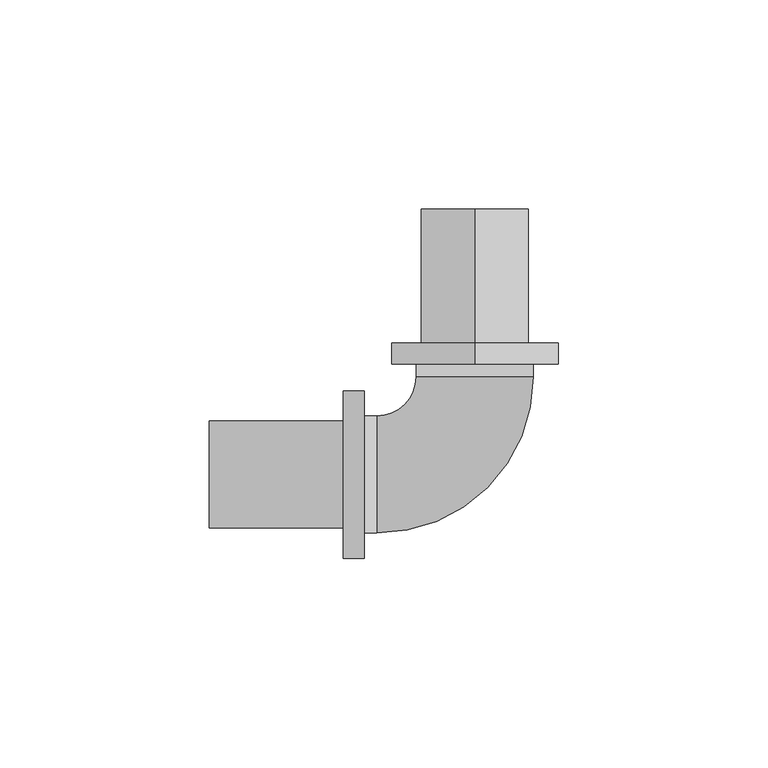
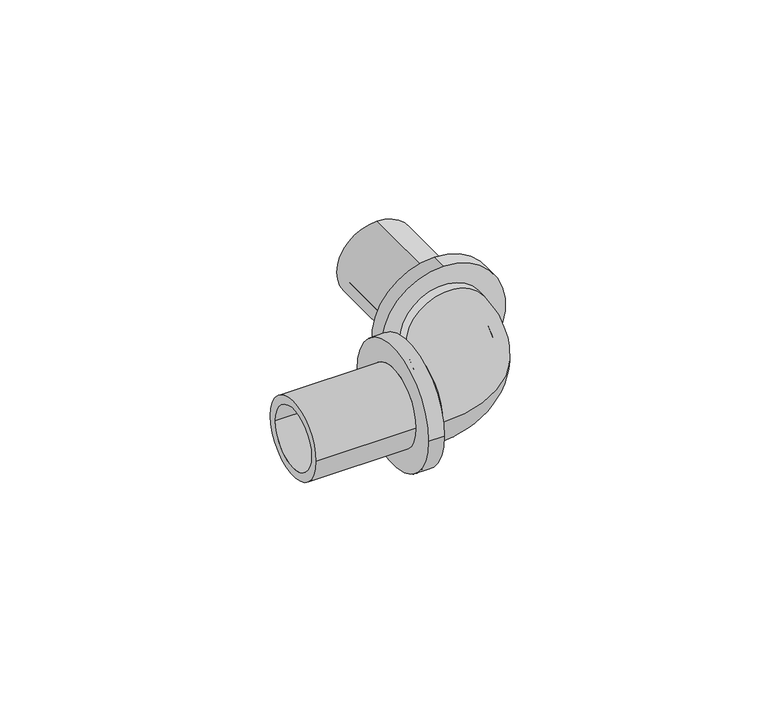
"""IFC4 building model written with IfcOpenShell, lengths in millimetres: pipe fitting geometry, RAUTITAN_Corner_RX+ : RTI RX+ C DE."""

import ifcopenshell
import ifcopenshell.guid

model = None  # the IFC model being written
_history = None  # IfcOwnerHistory: only IFC2X3 demands one
_inside = {}  # id of a spatial element -> (the spatial element, [elements in it])
_under = {}  # id of a project, library or spatial element -> (it, [spatial elements below it])
_declared = {}  # id of a project -> (the project, [libraries it declares])
_typed = {}  # id of a type object -> (the type object, [elements of that type])
_made_of = {}  # id of a material, layer set ... -> (it, [elements and type objects made of it])


def new_model(schema):
    """Start an empty IFC model of exactly this schema.

    Asked for "IFC4X3", IfcOpenShell would pick the latest addendum, in which some entities
    have other attributes; the version numbers below select the first issue.
    IFC2X3 requires an IfcOwnerHistory on every rooted entity: one is made here for all.
    """
    global model, _history
    if schema == "IFC4X3":
        model = ifcopenshell.file(schema_version=(4, 3, 0, 0))
    else:
        model = ifcopenshell.file(schema=schema)
    _inside.clear()
    _under.clear()
    _declared.clear()
    _typed.clear()
    _made_of.clear()
    _history = None
    if model.schema == "IFC2X3":
        org = make("IfcOrganization", Name="unknown")
        user = make(
            "IfcPersonAndOrganization",
            ThePerson=make("IfcPerson", FamilyName="unknown"),
            TheOrganization=org,
        )
        app = make(
            "IfcApplication",
            ApplicationDeveloper=org,
            Version="unknown",
            ApplicationFullName="unknown",
            ApplicationIdentifier="unknown",
        )
        _history = make(
            "IfcOwnerHistory",
            OwningUser=user,
            OwningApplication=app,
            ChangeAction="ADDED",
            CreationDate=0,
        )
    return model


def make(cls, **values):
    """One entity of the class cls with the attributes given. An attribute that is None is left unset."""
    return model.create_entity(
        cls, **{name: value for name, value in values.items() if value is not None}
    )


def rooted(cls, **values):
    """An entity with a GlobalId (a new one), such as an element, a storey or a relation."""
    return make(cls, GlobalId=ifcopenshell.guid.new(), OwnerHistory=_history, **values)


def si_unit(unit_type, name, prefix=None):
    """IfcSIUnit, for example si_unit("LENGTHUNIT", "METRE", prefix="MILLI")."""
    return make("IfcSIUnit", UnitType=unit_type, Prefix=prefix, Name=name)


def assignment(units):
    """IfcUnitAssignment: the units of a project."""
    return None if units is None else make("IfcUnitAssignment", Units=units)


def point(xyz):
    """IfcCartesianPoint."""
    return None if xyz is None else make("IfcCartesianPoint", Coordinates=xyz)


def direction(xyz):
    """IfcDirection."""
    return None if xyz is None else make("IfcDirection", DirectionRatios=xyz)


def frame(location, z_axis=None, x_axis=None):
    """IfcAxis2Placement3D, a coordinate frame: its origin and axes. An axis left out is left unset."""
    return make(
        "IfcAxis2Placement3D",
        Location=point(location),
        Axis=direction(z_axis),
        RefDirection=direction(x_axis),
    )


def origin():
    """The frame at (0, 0, 0) with its axes left unset."""
    return frame((0.0, 0.0, 0.0))


def place(relative_to, where):
    """IfcLocalPlacement: puts the frame where relative to a parent placement (None: the world)."""
    return make(
        "IfcLocalPlacement", PlacementRelTo=relative_to, RelativePlacement=where
    )


def context(
    kind, dimensions, precision=None, world=None, true_north=None, identifier=None
):
    """IfcGeometricRepresentationContext, for example the 3D "Model" context."""
    return make(
        "IfcGeometricRepresentationContext",
        ContextIdentifier=identifier,
        ContextType=kind,
        CoordinateSpaceDimension=dimensions,
        Precision=precision,
        WorldCoordinateSystem=world,
        TrueNorth=true_north,
    )


def project(units=None, contexts=None):
    """IfcProject with its units and contexts."""
    return rooted(
        "IfcProject",
        Name="project",
        RepresentationContexts=contexts,
        UnitsInContext=assignment(units),
    )


def spatial(cls, under=None, at=None, **own):
    """A site, building, storey or space (cls), placed at a placement, below another one or the project."""
    s = rooted(cls, ObjectPlacement=at, **own)
    if under is not None:
        _under.setdefault(under.id(), (under, []))[1].append(s)
    return s


def polyline(points):
    """IfcPolyline through the points."""
    return make("IfcPolyline", Points=[point(p) for p in points])


def circle_curve(where, radius):
    """IfcCircle in the frame where."""
    return make("IfcCircle", Position=where, Radius=radius)


def ellipse_curve(where, semi_axis1, semi_axis2):
    """IfcEllipse in the frame where."""
    return make(
        "IfcEllipse", Position=where, SemiAxis1=semi_axis1, SemiAxis2=semi_axis2
    )


def trimmed(basis, trim1, trim2, sense, master):
    """IfcTrimmedCurve: the piece of a basis curve between two trims."""
    return make(
        "IfcTrimmedCurve",
        BasisCurve=basis,
        Trim1=trim1,
        Trim2=trim2,
        SenseAgreement=sense,
        MasterRepresentation=master,
    )


def shape(context_of_items, identifier, shape_type, items):
    """IfcShapeRepresentation: the items that make up one representation, for example the "Body"."""
    return make(
        "IfcShapeRepresentation",
        ContextOfItems=context_of_items,
        RepresentationIdentifier=identifier,
        RepresentationType=shape_type,
        Items=items,
    )


def source(mapping_origin, context_of_items, identifier, shape_type, items):
    """IfcRepresentationMap: a shape defined once, which mapped items show again and again."""
    return make(
        "IfcRepresentationMap",
        MappingOrigin=mapping_origin,
        MappedRepresentation=shape(context_of_items, identifier, shape_type, items),
    )


def transform(
    local_origin,
    x_axis=None,
    y_axis=None,
    z_axis=None,
    scale=None,
    scale2=None,
    scale3=None,
    uniform=True,
):
    """IfcCartesianTransformationOperator3D, or its non-uniform kind. x_axis, y_axis, z_axis: its Axis1, 2, 3."""
    if uniform:
        return make(
            "IfcCartesianTransformationOperator3D",
            Axis1=direction(x_axis),
            Axis2=direction(y_axis),
            LocalOrigin=point(local_origin),
            Scale=scale,
            Axis3=direction(z_axis),
        )
    return make(
        "IfcCartesianTransformationOperator3DnonUniform",
        Axis1=direction(x_axis),
        Axis2=direction(y_axis),
        LocalOrigin=point(local_origin),
        Scale=scale,
        Axis3=direction(z_axis),
        Scale2=scale2,
        Scale3=scale3,
    )


def mapped(mapping_source, mapping_target):
    """IfcMappedItem: shows the shape of a source again, moved by a transform."""
    return make(
        "IfcMappedItem", MappingSource=mapping_source, MappingTarget=mapping_target
    )


def made_of(thing, what):
    """Note that an element or type object is made of a material, layer set ...; save() writes the relation."""
    if what is not None:
        _made_of.setdefault(what.id(), (what, []))[1].append(thing)
    return thing


def element(
    cls,
    number,
    at=None,
    inside=None,
    cuts=None,
    type_object=None,
    material=None,
    context=None,
    identifier="Body",
    shape_type=None,
    held_by="IfcProductDefinitionShape",
    body=None,
    shapes=None,
    **own,
):
    """One element of the class cls, such as IfcWall. Its Tag is "e" and its number.

    at: its placement. inside: the storey or other place that contains it. cuts: it is an
    opening in that element (IfcRelVoidsElement). A single representation is given by context,
    identifier, shape_type and body (its items); several are given by shapes. held_by: the class
    of the entity that holds the representations. save() writes the other relations.
    """
    e = rooted(cls, Tag="e%d" % number, ObjectPlacement=at, **own)
    if body is not None:
        shapes = [shape(context, identifier, shape_type, body)]
    if shapes is not None:
        e.Representation = make(held_by, Representations=shapes)
    if inside is not None:
        _inside.setdefault(inside.id(), (inside, []))[1].append(e)
    if cuts is not None:
        rooted(
            "IfcRelVoidsElement", RelatingBuildingElement=cuts, RelatedOpeningElement=e
        )
    if type_object is not None:
        _typed.setdefault(type_object.id(), (type_object, []))[1].append(e)
    return made_of(e, material)


def aggregate(whole, parts):
    """IfcRelAggregates: a whole, such as a stair, and the parts it consists of."""
    return rooted("IfcRelAggregates", RelatingObject=whole, RelatedObjects=parts)


def save(model, path):
    """Write the relations noted so far, then the file.

    IfcRelAggregates (storeys below a building ...), IfcRelContainedInSpatialStructure (elements
    in a storey), IfcRelDefinesByType, IfcRelAssociatesMaterial and IfcRelDeclares: one each for
    every whole, place, type object, material and project.
    """
    for whole, parts in _under.values():
        aggregate(whole, parts)
    for where, things in _inside.values():
        rooted(
            "IfcRelContainedInSpatialStructure",
            RelatedElements=things,
            RelatingStructure=where,
        )
    for kind, things in _typed.values():
        rooted("IfcRelDefinesByType", RelatedObjects=things, RelatingType=kind)
    for what, things in _made_of.values():
        rooted("IfcRelAssociatesMaterial", RelatedObjects=things, RelatingMaterial=what)
    for by, libraries in _declared.values():
        rooted("IfcRelDeclares", RelatingContext=by, RelatedDefinitions=libraries)
    model.write(path)


def plane_surface(at):
    """IfcPlane: the flat surface through the origin of the frame at, square to its z axis."""
    return make("IfcPlane", Position=at)


def cylinder_surface(at, radius):
    """IfcCylindricalSurface: all points at the distance radius from the z axis of the frame at."""
    return make("IfcCylindricalSurface", Position=at, Radius=radius)


def revolved_surface(curve, axis_point, axis_direction):
    """IfcSurfaceOfRevolution: the curve turned about the line through axis_point along axis_direction."""
    return make(
        "IfcSurfaceOfRevolution",
        SweptCurve=make("IfcArbitraryOpenProfileDef", ProfileType="CURVE", Curve=curve),
        AxisPosition=make("IfcAxis1Placement", Location=point(axis_point), Axis=direction(axis_direction)),
    )


def advanced_brep(points, edges, surfaces, faces):
    """IfcAdvancedBrep: a solid bounded by faces that lie on surfaces and meet in shared edges.

    An edge is (start, end): straight between two places in points (the first is 0);
    or (start, end, curve); or (start, end, curve, False) where it runs against its curve.
    A face is (place in surfaces, loops), or (place, loops, False) where it looks against
    its surface's normal. A loop lists edges by number (the first is 1), with a minus sign
    where the edge is run from its end to its start. The first loop is the outer one.
    """
    corners = [point(p) for p in points]
    vertices = [make("IfcVertexPoint", VertexGeometry=c) for c in corners]
    made = []
    for start, end, *more in edges:
        made.append(
            make(
                "IfcEdgeCurve",
                EdgeStart=vertices[start],
                EdgeEnd=vertices[end],
                EdgeGeometry=more[0] if more else make("IfcPolyline", Points=[corners[start], corners[end]]),
                SameSense=more[1] if len(more) > 1 else True,
            )
        )
    hull = []
    for where, loops, *sense in faces:
        bounds = []
        for j, loop in enumerate(loops):
            ring = [make("IfcOrientedEdge", EdgeElement=made[abs(k) - 1], Orientation=k > 0) for k in loop]
            bounds.append(
                make(
                    "IfcFaceOuterBound" if j == 0 else "IfcFaceBound",
                    Bound=make("IfcEdgeLoop", EdgeList=ring),
                    Orientation=True,
                )
            )
        hull.append(make("IfcAdvancedFace", Bounds=bounds, FaceSurface=surfaces[where], SameSense=sense[0] if sense else True))
    return make("IfcAdvancedBrep", Outer=make("IfcClosedShell", CfsFaces=hull))


def pipe_fitting_7f654206(model_context):
    return source(origin(), model_context, "Body", "AdvancedBrep", [
        advanced_brep(
        [(-26.4, 14.0, 0.0), (-26.4, -14.0, 0.0), (-26.4, 10.0, 0.0), (-26.4, -10.0, 0.0), (-23.4, -10.0, 0.0), (-23.4, 0.0, -10.0), (-23.4, 10.0, 0.0), (-23.4, 0.0, 10.0), (-23.4, -14.0, 0.0), (-23.4, 14.0, 0.0), (14.0, 26.4, 0.0), (-14.0, 26.4, 0.0), (10.0, 26.4, 0.0), (-10.0, 26.4, 0.0), (-10.0, 23.4, 0.0), (0.0, 23.4, -10.0), (10.0, 23.4, 0.0), (0.0, 23.4, 10.0), (-14.0, 23.4, 0.0), (14.0, 23.4, 0.0)],
        [
            (0, 1, circle_curve(frame((-26.4, 0.0, 0.0), z_axis=(-1.0, 0.0, 0.0), x_axis=(0.0, -1.0, 0.0)), 14.0)),
            (1, 0, circle_curve(frame((-26.4, 0.0, 0.0), z_axis=(-1.0, 0.0, 0.0), x_axis=(0.0, -1.0, 0.0)), 14.0)),
            (2, 3, circle_curve(frame((-26.4, 0.0, 0.0), z_axis=(1.0, 0.0, 0.0), x_axis=(0.0, -1.0, 0.0)), 10.0)),
            (3, 2, circle_curve(frame((-26.4, 0.0, 0.0), z_axis=(1.0, 0.0, 0.0), x_axis=(0.0, -1.0, 0.0)), 10.0)),
            (3, 4),
            (4, 5, circle_curve(frame((-23.4, 0.0, 0.0), z_axis=(1.0, 0.0, 0.0), x_axis=(0.0, -1.0, 0.0)), 10.0)),
            (5, 6, circle_curve(frame((-23.4, 0.0, 0.0), z_axis=(1.0, 0.0, 0.0), x_axis=(0.0, -1.0, 0.0)), 10.0)),
            (6, 2),
            (6, 7, circle_curve(frame((-23.4, 0.0, 0.0), z_axis=(1.0, 0.0, 0.0), x_axis=(0.0, -1.0, 0.0)), 10.0)),
            (7, 4, circle_curve(frame((-23.4, 0.0, 0.0), z_axis=(1.0, 0.0, 0.0), x_axis=(0.0, -1.0, 0.0)), 10.0)),
            (1, 8),
            (8, 9, circle_curve(frame((-23.4, 0.0, 0.0), z_axis=(-1.0, 0.0, 0.0), x_axis=(0.0, -1.0, 0.0)), 14.0)),
            (9, 0),
            (9, 8, circle_curve(frame((-23.4, 0.0, 0.0), z_axis=(-1.0, 0.0, 0.0), x_axis=(0.0, -1.0, 0.0)), 14.0)),
            (10, 11, circle_curve(frame((0.0, 26.4, 0.0), z_axis=(0.0, 1.0, 0.0), x_axis=(-1.0, 0.0, 0.0)), 14.0)),
            (11, 10, circle_curve(frame((0.0, 26.4, 0.0), z_axis=(0.0, 1.0, 0.0), x_axis=(-1.0, 0.0, 0.0)), 14.0)),
            (12, 13, circle_curve(frame((0.0, 26.4, 0.0), z_axis=(0.0, -1.0, 0.0), x_axis=(-1.0, 0.0, 0.0)), 10.0)),
            (13, 12, circle_curve(frame((0.0, 26.4, 0.0), z_axis=(0.0, -1.0, 0.0), x_axis=(-1.0, 0.0, 0.0)), 10.0)),
            (13, 14),
            (14, 15, circle_curve(frame((0.0, 23.4, 0.0), z_axis=(0.0, -1.0, 0.0), x_axis=(-1.0, 0.0, 0.0)), 10.0)),
            (15, 16, circle_curve(frame((0.0, 23.4, 0.0), z_axis=(0.0, -1.0, 0.0), x_axis=(-1.0, 0.0, 0.0)), 10.0)),
            (16, 12),
            (16, 17, circle_curve(frame((0.0, 23.4, 0.0), z_axis=(0.0, -1.0, 0.0), x_axis=(-1.0, 0.0, 0.0)), 10.0)),
            (17, 14, circle_curve(frame((0.0, 23.4, 0.0), z_axis=(0.0, -1.0, 0.0), x_axis=(-1.0, 0.0, 0.0)), 10.0)),
            (11, 18),
            (18, 19, circle_curve(frame((0.0, 23.4, 0.0), z_axis=(0.0, 1.0, 0.0), x_axis=(-1.0, 0.0, 0.0)), 14.0)),
            (19, 10),
            (19, 18, circle_curve(frame((0.0, 23.4, 0.0), z_axis=(0.0, 1.0, 0.0), x_axis=(-1.0, 0.0, 0.0)), 14.0)),
            (14, 6, circle_curve(frame((-23.4, 23.4, 0.0), z_axis=(0.0, 0.0, -1.0), x_axis=(0.0, -1.0, 0.0)), 13.4)),
            (4, 16, circle_curve(frame((-23.4, 23.4, 0.0), z_axis=(0.0, 0.0, 1.0), x_axis=(0.0, -1.0, 0.0)), 33.4)),
            (18, 9, circle_curve(frame((-23.4, 23.4, 0.0), z_axis=(0.0, 0.0, -1.0), x_axis=(0.0, -1.0, 0.0)), 9.4)),
            (8, 19, circle_curve(frame((-23.4, 23.4, 0.0), z_axis=(0.0, 0.0, 1.0), x_axis=(0.0, -1.0, 0.0)), 37.4)),
        ],
        [
            plane_surface(frame((-26.4, 0.0, 0.0), z_axis=(-1.0, 0.0, 0.0), x_axis=(0.0, 0.0, 1.0))),
            revolved_surface(polyline([(-26.4, -10.0, 0.0), (-23.4, -10.0, 0.0)]), (-23.4, 0.0, 0.0), (-1.0, 0.0, 0.0)),
            cylinder_surface(frame((-23.4, 0.0, 0.0), z_axis=(1.0, 0.0, 0.0), x_axis=(0.0, -1.0, 0.0)), 14.0),
            plane_surface(frame((0.0, 26.4, 0.0), z_axis=(0.0, 1.0, 0.0), x_axis=(0.0, 0.0, 1.0))),
            revolved_surface(polyline([(-10.0, 26.4, 0.0), (-10.0, 23.4, 0.0)]), (0.0, 23.4, 0.0), (0.0, 1.0, 0.0)),
            cylinder_surface(frame((0.0, 23.4, 0.0), z_axis=(0.0, -1.0, 0.0), x_axis=(-1.0, 0.0, 0.0)), 14.0),
            revolved_surface(trimmed(ellipse_curve(frame((-23.4, 0.0, 0.0), z_axis=(1.0, 0.0, 0.0), x_axis=(0.0, 1.0, 0.0)), 10.0, 10.0), [point((-23.4, -10.0, 0.0))], [point((-23.4, 10.0, 0.0))], True, "CARTESIAN"), (-23.4, 23.4, 0.0), (0.0, 0.0, 1.0)),
            revolved_surface(trimmed(ellipse_curve(frame((-23.4, 0.0, 0.0), z_axis=(1.0, 0.0, 0.0), x_axis=(0.0, 1.0, 0.0)), 10.0, 10.0), [point((-23.4, 10.0, 0.0))], [point((-23.4, -10.0, 0.0))], True, "CARTESIAN"), (-23.4, 23.4, 0.0), (0.0, 0.0, 1.0)),
            revolved_surface(trimmed(ellipse_curve(frame((-23.4, 0.0, 0.0), z_axis=(-1.0, 0.0, 0.0), x_axis=(0.0, 1.0, 0.0)), 14.0, 14.0), [point((-23.4, -14.0, 0.0))], [point((-23.4, 14.0, 0.0))], True, "CARTESIAN"), (-23.4, 23.4, 0.0), (0.0, 0.0, 1.0)),
            revolved_surface(trimmed(ellipse_curve(frame((-23.4, 0.0, 0.0), z_axis=(-1.0, 0.0, 0.0), x_axis=(0.0, 1.0, 0.0)), 14.0, 14.0), [point((-23.4, 14.0, 0.0))], [point((-23.4, -14.0, 0.0))], True, "CARTESIAN"), (-23.4, 23.4, 0.0), (0.0, 0.0, 1.0)),
        ],
        [
            (0, [[1, 2], [3, 4]]),
            (1, [[-4, 5, 6, 7, 8]]),
            (1, [[-3, -8, 9, 10, -5]]),
            (2, [[-2, 11, 12, 13]]),
            (2, [[-1, -13, 14, -11]]),
            (3, [[15, 16], [17, 18]]),
            (4, [[-18, 19, 20, 21, 22]]),
            (4, [[-17, -22, 23, 24, -19]]),
            (5, [[-16, 25, 26, 27]]),
            (5, [[-15, -27, 28, -25]]),
            (6, [[29, -7, -6, 30, -21, -20]]),
            (7, [[-29, -24, -23, -30, -10, -9]]),
            (8, [[31, -12, 32, -26]]),
            (9, [[-31, -28, -32, -14]]),
        ],
    ),
        advanced_brep(
        [(-31.4, -20.0, 0.0), (-31.4, 20.0, 0.0), (-26.4, 20.0, 0.0), (-26.4, -20.0, 0.0), (-63.4, -12.8, 0.0), (-63.4, 12.8, 0.0), (-31.4, 12.8, 0.0), (-31.4, -12.8, 0.0), (-26.4, -10.0, 0.0), (-26.4, 10.0, 0.0), (-63.4, 10.0, 0.0), (-63.4, -10.0, 0.0)],
        [
            (0, 1, circle_curve(frame((-31.4, 0.0, 0.0), z_axis=(1.0, 0.0, 0.0), x_axis=(0.0, 1.0, 0.0)), 20.0)),
            (1, 2),
            (2, 3, circle_curve(frame((-26.4, 0.0, 0.0), z_axis=(-1.0, 0.0, 0.0), x_axis=(0.0, 1.0, 0.0)), 20.0)),
            (3, 0),
            (4, 5, circle_curve(frame((-63.4, 0.0, 0.0), z_axis=(1.0, 0.0, 0.0), x_axis=(0.0, 1.0, 0.0)), 12.8)),
            (5, 6),
            (6, 7, circle_curve(frame((-31.4, 0.0, 0.0), z_axis=(-1.0, 0.0, 0.0), x_axis=(0.0, 1.0, 0.0)), 12.8)),
            (7, 4),
            (8, 9, circle_curve(frame((-26.4, 0.0, 0.0), z_axis=(1.0, 0.0, 0.0), x_axis=(0.0, 1.0, 0.0)), 10.0)),
            (9, 10),
            (10, 11, circle_curve(frame((-63.4, 0.0, 0.0), z_axis=(-1.0, 0.0, 0.0), x_axis=(0.0, 1.0, 0.0)), 10.0)),
            (11, 8),
            (1, 0, circle_curve(frame((-31.4, 0.0, 0.0), z_axis=(1.0, 0.0, 0.0), x_axis=(0.0, -1.0, 0.0)), 20.0)),
            (3, 2, circle_curve(frame((-26.4, 0.0, 0.0), z_axis=(-1.0, 0.0, 0.0), x_axis=(0.0, -1.0, 0.0)), 20.0)),
            (6, 7, circle_curve(frame((-31.4, 0.0, 0.0), z_axis=(1.0, 0.0, 0.0), x_axis=(0.0, -1.0, 0.0)), 12.8)),
            (5, 4, circle_curve(frame((-63.4, 0.0, 0.0), z_axis=(1.0, 0.0, 0.0), x_axis=(0.0, -1.0, 0.0)), 12.8)),
            (10, 11, circle_curve(frame((-63.4, 0.0, 0.0), z_axis=(1.0, 0.0, 0.0), x_axis=(0.0, -1.0, 0.0)), 10.0)),
            (9, 8, circle_curve(frame((-26.4, 0.0, 0.0), z_axis=(1.0, 0.0, 0.0), x_axis=(0.0, -1.0, 0.0)), 10.0)),
        ],
        [
            cylinder_surface(frame((-26.4, 0.0, 0.0), z_axis=(-1.0, 0.0, 0.0), x_axis=(0.0, 1.0, 0.0)), 20.0),
            cylinder_surface(frame((-26.4, 0.0, 0.0), z_axis=(-1.0, 0.0, 0.0), x_axis=(0.0, 1.0, 0.0)), 12.8),
            revolved_surface(polyline([(-63.4, 10.0, 0.0), (-26.4, 10.0, 0.0)]), (-26.4, 0.0, 0.0), (-1.0, 0.0, 0.0)),
            cylinder_surface(frame((-26.4, 0.0, 0.0), z_axis=(-1.0, 0.0, 0.0), x_axis=(0.0, -1.0, 0.0)), 20.0),
            plane_surface(frame((-31.4, 0.0, 0.0), z_axis=(-1.0, 0.0, 0.0), x_axis=(0.0, -1.0, 0.0))),
            cylinder_surface(frame((-26.4, 0.0, 0.0), z_axis=(-1.0, 0.0, 0.0), x_axis=(0.0, -1.0, 0.0)), 12.8),
            plane_surface(frame((-63.4, 0.0, 0.0), z_axis=(-1.0, 0.0, 0.0), x_axis=(0.0, -1.0, 0.0))),
            revolved_surface(polyline([(-63.4, -10.0, 0.0), (-26.4, -10.0, 0.0)]), (-26.4, 0.0, 0.0), (-1.0, 0.0, 0.0)),
            plane_surface(frame((-26.4, 0.0, 0.0), z_axis=(1.0, 0.0, 0.0), x_axis=(0.0, -1.0, 0.0))),
        ],
        [
            (0, [[1, 2, 3, 4]]),
            (1, [[5, 6, 7, 8]]),
            (2, [[9, 10, 11, 12]]),
            (3, [[13, -4, 14, -2]]),
            (4, [[-13, -1], [15, -7]]),
            (5, [[16, -8, -15, -6]]),
            (6, [[-16, -5], [17, -11]]),
            (7, [[18, -12, -17, -10]]),
            (8, [[-14, -3], [-18, -9]]),
        ],
    ),
        advanced_brep(
        [(0.0, 31.4, 20.4249044), (0.0, 31.4, -19.5750956), (0.0, 26.4, -19.5750956), (0.0, 26.4, 20.4249044), (0.0, 63.4, 13.2249044), (0.0, 63.4, -12.3750956), (0.0, 31.4, -12.3750956), (0.0, 31.4, 13.2249044), (0.0, 26.4, 10.4249044), (0.0, 26.4, -9.5750956), (0.0, 63.4, -9.5750956), (0.0, 63.4, 10.4249044)],
        [
            (0, 1, circle_curve(frame((0.0, 31.4, 0.4249044), z_axis=(0.0, -1.0, 0.0), x_axis=(0.0, 0.0, -1.0)), 20.0)),
            (1, 2),
            (2, 3, circle_curve(frame((0.0, 26.4, 0.4249044), z_axis=(0.0, 1.0, 0.0), x_axis=(0.0, 0.0, -1.0)), 20.0)),
            (3, 0),
            (4, 5, circle_curve(frame((0.0, 63.4, 0.4249044), z_axis=(0.0, -1.0, 0.0), x_axis=(0.0, 0.0, -1.0)), 12.8)),
            (5, 6),
            (6, 7, circle_curve(frame((0.0, 31.4, 0.4249044), z_axis=(0.0, 1.0, 0.0), x_axis=(0.0, 0.0, -1.0)), 12.8)),
            (7, 4),
            (8, 9, circle_curve(frame((0.0, 26.4, 0.4249044), z_axis=(0.0, -1.0, 0.0), x_axis=(0.0, 0.0, -1.0)), 10.0)),
            (9, 10),
            (10, 11, circle_curve(frame((0.0, 63.4, 0.4249044), z_axis=(0.0, 1.0, 0.0), x_axis=(0.0, 0.0, -1.0)), 10.0)),
            (11, 8),
            (1, 0, circle_curve(frame((0.0, 31.4, 0.4249044), z_axis=(0.0, -1.0, 0.0), x_axis=(0.0, 0.0, 1.0)), 20.0)),
            (3, 2, circle_curve(frame((0.0, 26.4, 0.4249044), z_axis=(0.0, 1.0, 0.0), x_axis=(0.0, 0.0, 1.0)), 20.0)),
            (6, 7, circle_curve(frame((0.0, 31.4, 0.4249044), z_axis=(0.0, -1.0, 0.0), x_axis=(0.0, 0.0, 1.0)), 12.8)),
            (5, 4, circle_curve(frame((0.0, 63.4, 0.4249044), z_axis=(0.0, -1.0, 0.0), x_axis=(0.0, 0.0, 1.0)), 12.8)),
            (10, 11, circle_curve(frame((0.0, 63.4, 0.4249044), z_axis=(0.0, -1.0, 0.0), x_axis=(0.0, 0.0, 1.0)), 10.0)),
            (9, 8, circle_curve(frame((0.0, 26.4, 0.4249044), z_axis=(0.0, -1.0, 0.0), x_axis=(0.0, 0.0, 1.0)), 10.0)),
        ],
        [
            cylinder_surface(frame((0.0, 26.4, 0.4249044), z_axis=(0.0, 1.0, 0.0), x_axis=(0.0, 0.0, -1.0)), 20.0),
            cylinder_surface(frame((0.0, 26.4, 0.4249044), z_axis=(0.0, 1.0, 0.0), x_axis=(0.0, 0.0, -1.0)), 12.8),
            revolved_surface(polyline([(0.0, 63.4, -9.5750956), (0.0, 26.4, -9.5750956)]), (0.0, 26.4, 0.4249044), (0.0, 1.0, 0.0)),
            cylinder_surface(frame((0.0, 26.4, 0.4249044), z_axis=(0.0, 1.0, 0.0), x_axis=(0.0, 0.0, 1.0)), 20.0),
            plane_surface(frame((0.0, 31.4, 0.4249044), z_axis=(0.0, 1.0, 0.0), x_axis=(0.0, 0.0, 1.0))),
            cylinder_surface(frame((0.0, 26.4, 0.4249044), z_axis=(0.0, 1.0, 0.0), x_axis=(0.0, 0.0, 1.0)), 12.8),
            plane_surface(frame((0.0, 63.4, 0.4249044), z_axis=(0.0, 1.0, 0.0), x_axis=(0.0, 0.0, 1.0))),
            revolved_surface(polyline([(0.0, 63.4, 10.4249044), (0.0, 26.4, 10.4249044)]), (0.0, 26.4, 0.4249044), (0.0, 1.0, 0.0)),
            plane_surface(frame((0.0, 26.4, 0.4249044), z_axis=(0.0, -1.0, 0.0), x_axis=(0.0, 0.0, 1.0))),
        ],
        [
            (0, [[1, 2, 3, 4]]),
            (1, [[5, 6, 7, 8]]),
            (2, [[9, 10, 11, 12]]),
            (3, [[13, -4, 14, -2]]),
            (4, [[-13, -1], [15, -7]]),
            (5, [[16, -8, -15, -6]]),
            (6, [[-16, -5], [17, -11]]),
            (7, [[18, -12, -17, -10]]),
            (8, [[-14, -3], [-18, -9]]),
        ],
    ),
    ])


if __name__ == "__main__":
    model = new_model("IFC4")
    model_context = context("Model", 3, world=origin())
    ifc_project = project(units=[si_unit("LENGTHUNIT", "METRE", prefix="MILLI")], contexts=[model_context])
    site = spatial("IfcSite", under=ifc_project)
    building = spatial("IfcBuilding", under=site)
    placement = place(None, origin())
    pipe_fitting_shape = pipe_fitting_7f654206(model_context)
    element("IfcPipeFitting", 1, ObjectType="RAUTITAN_Corner_RX+ : RTI RX+ C DE", at=placement, inside=building, context=model_context, shape_type="MappedRepresentation", body=[
        mapped(pipe_fitting_shape, transform((0.0, 0.0, 0.0), x_axis=(1.0, 0.0, 0.0), y_axis=(0.0, 1.0, 0.0), z_axis=(0.0, 0.0, 1.0))),
    ])
    save(model, "model.ifc")
